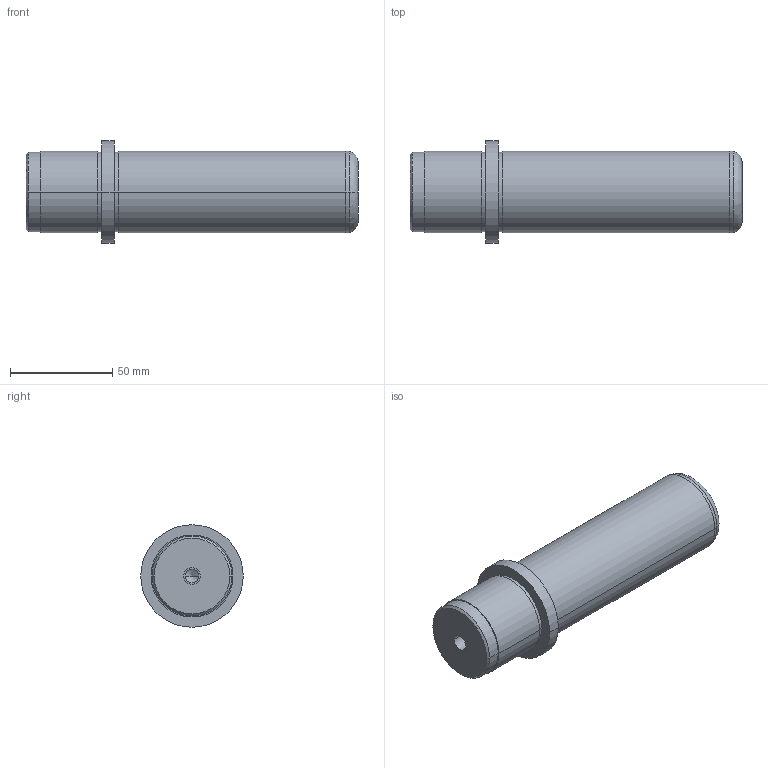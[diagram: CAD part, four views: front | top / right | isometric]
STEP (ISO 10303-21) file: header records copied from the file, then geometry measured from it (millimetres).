
FILE_DESCRIPTION( ( 'STEP AP203' ), '1' );
FILE_NAME( 'D:/Delta 3 D/D00/D00 - 40x125x37.step', '2003-01-02T07:12:04', ( ' ' ), ( ' ' ), 'XStep 1.0', ' ', ' ' );
FILE_SCHEMA( ( 'CONFIG_CONTROL_DESIGN' ) );
Length unit declared in the file: metre
Products named in the file (1): 1
Bounding box: 162 x 50 x 50 mm (x, y, z)
Volume: 204098.5 mm3; surface area: 25484.6 mm2
Topology: 1 solids, 1 shells, 39 faces, 78 edges, 48 vertices
Faces by surface type: revolution 28, bspline 11
Entity records: 1137 total; most frequent: CARTESIAN_POINT 277, DIRECTION 154, ORIENTED_EDGE 152, EDGE_CURVE 76, AXIS2_PLACEMENT_3D 49, EDGE_LOOP 48, VERTEX_POINT 48, CIRCLE 48
